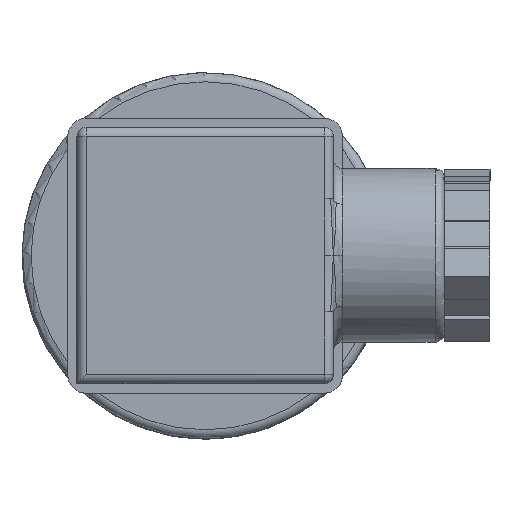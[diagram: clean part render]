
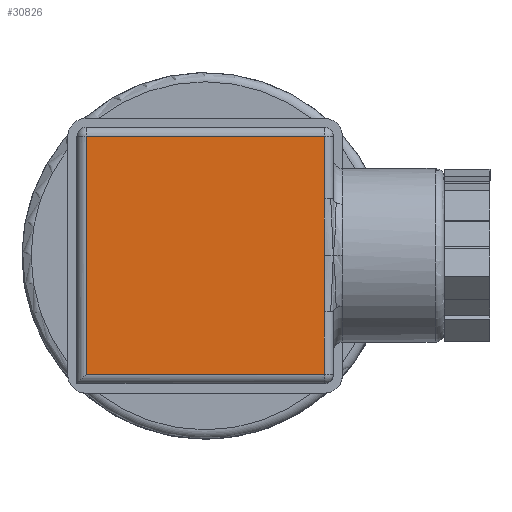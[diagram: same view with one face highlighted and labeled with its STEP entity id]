
A CAD part, top view. The second image highlights one B-rep face of the part: STEP entity #30826.
In plain terms, the highlighted planar face has unit normal (0, 0, 1).
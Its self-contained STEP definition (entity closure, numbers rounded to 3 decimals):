
#226=CARTESIAN_POINT('',(12.766,1.582,98.432));
#227=VERTEX_POINT('',#226);
#238=CARTESIAN_POINT('',(12.766,-4.583,98.432));
#239=VERTEX_POINT('',#238);
#240=CARTESIAN_POINT('',(12.766,1.582,98.432));
#241=DIRECTION('',(0.,-1.0,0.));
#242=VECTOR('',#241,6.164);
#243=LINE('',#240,#242);
#244=EDGE_CURVE('',#227,#239,#243,.T.);
#325=CARTESIAN_POINT('',(12.766,7.746,98.432));
#326=VERTEX_POINT('',#325);
#334=CARTESIAN_POINT('',(12.766,7.746,98.432));
#335=DIRECTION('',(0.,-1.0,0.));
#336=VECTOR('',#335,6.164);
#337=LINE('',#334,#336);
#338=EDGE_CURVE('',#326,#227,#337,.T.);
#30480=CARTESIAN_POINT('',(12.766,14.582,98.432));
#30481=VERTEX_POINT('',#30480);
#30537=CARTESIAN_POINT('',(-13.234,14.582,98.432));
#30538=VERTEX_POINT('',#30537);
#30648=CARTESIAN_POINT('',(12.766,-11.418,98.432));
#30649=VERTEX_POINT('',#30648);
#30682=CARTESIAN_POINT('',(12.766,-4.583,98.432));
#30683=DIRECTION('',(0.,-1.0,0.));
#30684=VECTOR('',#30683,6.836);
#30685=LINE('',#30682,#30684);
#30686=EDGE_CURVE('',#239,#30649,#30685,.T.);
#30698=CARTESIAN_POINT('',(-13.234,-11.418,98.432));
#30699=VERTEX_POINT('',#30698);
#30700=CARTESIAN_POINT('',(12.766,-11.418,98.432));
#30701=DIRECTION('',(-1.0,0.0,0.0));
#30702=VECTOR('',#30701,26.0);
#30703=LINE('',#30700,#30702);
#30704=EDGE_CURVE('',#30649,#30699,#30703,.T.);
#30721=CARTESIAN_POINT('',(-13.234,-11.418,98.432));
#30722=DIRECTION('',(0.,1.0,0.));
#30723=VECTOR('',#30722,26.);
#30724=LINE('',#30721,#30723);
#30725=EDGE_CURVE('',#30699,#30538,#30724,.T.);
#30767=CARTESIAN_POINT('',(12.766,14.582,98.432));
#30768=DIRECTION('',(0.,-1.0,0.));
#30769=VECTOR('',#30768,6.836);
#30770=LINE('',#30767,#30769);
#30771=EDGE_CURVE('',#30481,#326,#30770,.T.);
#30789=CARTESIAN_POINT('',(-13.234,14.582,98.432));
#30790=DIRECTION('',(1.0,0.0,0.0));
#30791=VECTOR('',#30790,26.0);
#30792=LINE('',#30789,#30791);
#30793=EDGE_CURVE('',#30538,#30481,#30792,.T.);
#30812=CARTESIAN_POINT('',(-0.234,1.582,98.432));
#30813=DIRECTION('',(0.,0.,1.0));
#30814=DIRECTION('',(0.,1.0,0.));
#30815=AXIS2_PLACEMENT_3D('',#30812,#30813,#30814);
#30816=PLANE('',#30815);
#30817=ORIENTED_EDGE('',*,*,#338,.F.);
#30818=ORIENTED_EDGE('',*,*,#30771,.F.);
#30819=ORIENTED_EDGE('',*,*,#30793,.F.);
#30820=ORIENTED_EDGE('',*,*,#30725,.F.);
#30821=ORIENTED_EDGE('',*,*,#30704,.F.);
#30822=ORIENTED_EDGE('',*,*,#30686,.F.);
#30823=ORIENTED_EDGE('',*,*,#244,.F.);
#30824=EDGE_LOOP('',(#30817,#30818,#30819,#30820,#30821,#30822,#30823));
#30825=FACE_OUTER_BOUND('',#30824,.T.);
#30826=ADVANCED_FACE('',(#30825),#30816,.T.);
